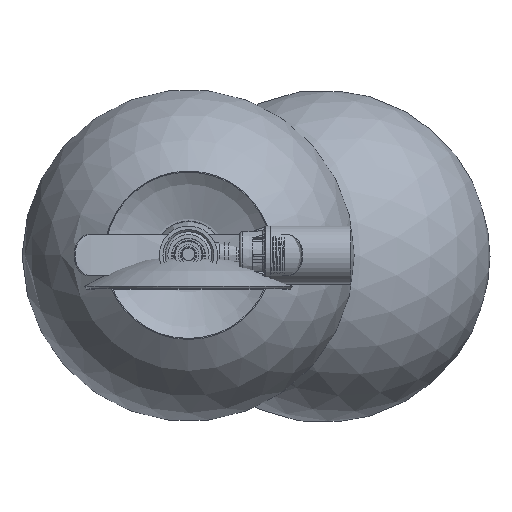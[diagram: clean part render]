
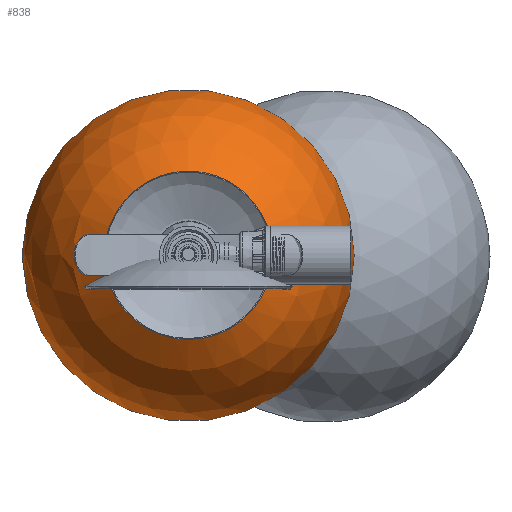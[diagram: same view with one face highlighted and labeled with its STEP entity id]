
A CAD part, top view. The second image highlights one B-rep face of the part: STEP entity #838.
In plain terms, the highlighted spherical face has radius 80 mm.
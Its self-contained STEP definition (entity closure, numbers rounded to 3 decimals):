
#838 = ADVANCED_FACE( '', ( #1627 ), #1628, .T. );
#1627 = FACE_OUTER_BOUND( '', #3202, .T. );
#1628 = SPHERICAL_SURFACE( '', #3203, 80. );
#3202 = EDGE_LOOP( '', ( #10415 ) );
#3203 = AXIS2_PLACEMENT_3D( '', #10416, #10417, #10418 );
#10415 = ORIENTED_EDGE( '', *, *, #11472, .T. );
#10416 = CARTESIAN_POINT( '', ( 0., 0., -80. ) );
#10417 = DIRECTION( '', ( 0., 0., -1. ) );
#10418 = DIRECTION( '', ( -1., 0., 0. ) );
#11472 = EDGE_CURVE( '', #12951, #12951, #12952, .F. );
#12951 = VERTEX_POINT( '', #16320 );
#12952 = CIRCLE( '', #16321, 40.485 );
#16320 = CARTESIAN_POINT( '', ( 40.485, 0., -11. ) );
#16321 = AXIS2_PLACEMENT_3D( '', #18927, #18928, #18929 );
#18927 = CARTESIAN_POINT( '', ( 0., 0., -11. ) );
#18928 = DIRECTION( '', ( 0., 0., 1. ) );
#18929 = DIRECTION( '', ( 1., 0., 0. ) );
